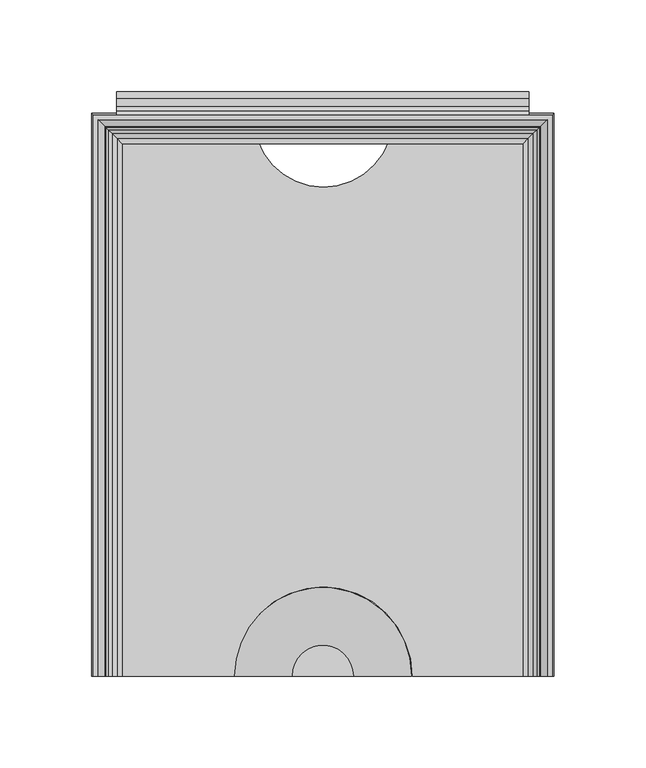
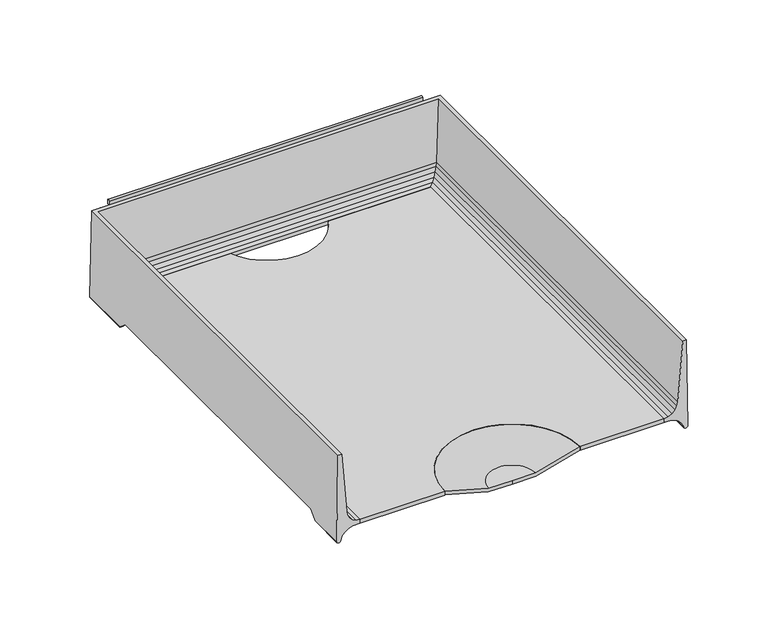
"""IFC4 building model written with IfcOpenShell, lengths in millimetres: furniture geometry."""

import ifcopenshell
import ifcopenshell.guid

model = None  # the IFC model being written
_history = None  # IfcOwnerHistory: only IFC2X3 demands one
_inside = {}  # id of a spatial element -> (the spatial element, [elements in it])
_under = {}  # id of a project, library or spatial element -> (it, [spatial elements below it])
_declared = {}  # id of a project -> (the project, [libraries it declares])
_typed = {}  # id of a type object -> (the type object, [elements of that type])
_made_of = {}  # id of a material, layer set ... -> (it, [elements and type objects made of it])


def new_model(schema):
    """Start an empty IFC model of exactly this schema.

    Asked for "IFC4X3", IfcOpenShell would pick the latest addendum, in which some entities
    have other attributes; the version numbers below select the first issue.
    IFC2X3 requires an IfcOwnerHistory on every rooted entity: one is made here for all.
    """
    global model, _history
    if schema == "IFC4X3":
        model = ifcopenshell.file(schema_version=(4, 3, 0, 0))
    else:
        model = ifcopenshell.file(schema=schema)
    _inside.clear()
    _under.clear()
    _declared.clear()
    _typed.clear()
    _made_of.clear()
    _history = None
    if model.schema == "IFC2X3":
        org = make("IfcOrganization", Name="unknown")
        user = make(
            "IfcPersonAndOrganization",
            ThePerson=make("IfcPerson", FamilyName="unknown"),
            TheOrganization=org,
        )
        app = make(
            "IfcApplication",
            ApplicationDeveloper=org,
            Version="unknown",
            ApplicationFullName="unknown",
            ApplicationIdentifier="unknown",
        )
        _history = make(
            "IfcOwnerHistory",
            OwningUser=user,
            OwningApplication=app,
            ChangeAction="ADDED",
            CreationDate=0,
        )
    return model


def make(cls, **values):
    """One entity of the class cls with the attributes given. An attribute that is None is left unset."""
    return model.create_entity(
        cls, **{name: value for name, value in values.items() if value is not None}
    )


def rooted(cls, **values):
    """An entity with a GlobalId (a new one), such as an element, a storey or a relation."""
    return make(cls, GlobalId=ifcopenshell.guid.new(), OwnerHistory=_history, **values)


def si_unit(unit_type, name, prefix=None):
    """IfcSIUnit, for example si_unit("LENGTHUNIT", "METRE", prefix="MILLI")."""
    return make("IfcSIUnit", UnitType=unit_type, Prefix=prefix, Name=name)


def assignment(units):
    """IfcUnitAssignment: the units of a project."""
    return None if units is None else make("IfcUnitAssignment", Units=units)


def point(xyz):
    """IfcCartesianPoint."""
    return None if xyz is None else make("IfcCartesianPoint", Coordinates=xyz)


def direction(xyz):
    """IfcDirection."""
    return None if xyz is None else make("IfcDirection", DirectionRatios=xyz)


def frame(location, z_axis=None, x_axis=None):
    """IfcAxis2Placement3D, a coordinate frame: its origin and axes. An axis left out is left unset."""
    return make(
        "IfcAxis2Placement3D",
        Location=point(location),
        Axis=direction(z_axis),
        RefDirection=direction(x_axis),
    )


def frame_2d(location, x_axis=None):
    """IfcAxis2Placement2D, a coordinate frame in the plane: its origin and x axis."""
    return make(
        "IfcAxis2Placement2D", Location=point(location), RefDirection=direction(x_axis)
    )


def origin():
    """The frame at (0, 0, 0) with its axes left unset."""
    return frame((0.0, 0.0, 0.0))


def place(relative_to, where):
    """IfcLocalPlacement: puts the frame where relative to a parent placement (None: the world)."""
    return make(
        "IfcLocalPlacement", PlacementRelTo=relative_to, RelativePlacement=where
    )


def context(
    kind, dimensions, precision=None, world=None, true_north=None, identifier=None
):
    """IfcGeometricRepresentationContext, for example the 3D "Model" context."""
    return make(
        "IfcGeometricRepresentationContext",
        ContextIdentifier=identifier,
        ContextType=kind,
        CoordinateSpaceDimension=dimensions,
        Precision=precision,
        WorldCoordinateSystem=world,
        TrueNorth=true_north,
    )


def project(units=None, contexts=None):
    """IfcProject with its units and contexts."""
    return rooted(
        "IfcProject",
        Name="project",
        RepresentationContexts=contexts,
        UnitsInContext=assignment(units),
    )


def spatial(cls, under=None, at=None, **own):
    """A site, building, storey or space (cls), placed at a placement, below another one or the project."""
    s = rooted(cls, ObjectPlacement=at, **own)
    if under is not None:
        _under.setdefault(under.id(), (under, []))[1].append(s)
    return s


def polyline(points):
    """IfcPolyline through the points."""
    return make("IfcPolyline", Points=[point(p) for p in points])


def circle_curve(where, radius):
    """IfcCircle in the frame where."""
    return make("IfcCircle", Position=where, Radius=radius)


def ellipse_curve(where, semi_axis1, semi_axis2):
    """IfcEllipse in the frame where."""
    return make(
        "IfcEllipse", Position=where, SemiAxis1=semi_axis1, SemiAxis2=semi_axis2
    )


def trimmed(basis, trim1, trim2, sense, master):
    """IfcTrimmedCurve: the piece of a basis curve between two trims."""
    return make(
        "IfcTrimmedCurve",
        BasisCurve=basis,
        Trim1=trim1,
        Trim2=trim2,
        SenseAgreement=sense,
        MasterRepresentation=master,
    )


def segment(curve, same_sense, transition):
    """IfcCompositeCurveSegment."""
    return make(
        "IfcCompositeCurveSegment",
        Transition=transition,
        SameSense=same_sense,
        ParentCurve=curve,
    )


def composite_curve(segments, self_intersect=None):
    """IfcCompositeCurve: segments joined end to end."""
    return make("IfcCompositeCurve", Segments=segments, SelfIntersect=self_intersect)


def outline(outer, holes=None, kind="AREA"):
    """IfcArbitraryClosedProfileDef: a profile drawn as a closed curve; with holes, ...WithVoids."""
    if holes is None:
        return make("IfcArbitraryClosedProfileDef", ProfileType=kind, OuterCurve=outer)
    return make(
        "IfcArbitraryProfileDefWithVoids",
        ProfileType=kind,
        OuterCurve=outer,
        InnerCurves=holes,
    )


def extrude(swept, where, along, depth):
    """IfcExtrudedAreaSolid: the profile swept, set in the frame where, extruded along a direction by depth."""
    return make(
        "IfcExtrudedAreaSolid",
        SweptArea=swept,
        Position=where,
        ExtrudedDirection=direction(along),
        Depth=depth,
    )


def shape(context_of_items, identifier, shape_type, items):
    """IfcShapeRepresentation: the items that make up one representation, for example the "Body"."""
    return make(
        "IfcShapeRepresentation",
        ContextOfItems=context_of_items,
        RepresentationIdentifier=identifier,
        RepresentationType=shape_type,
        Items=items,
    )


def source(mapping_origin, context_of_items, identifier, shape_type, items):
    """IfcRepresentationMap: a shape defined once, which mapped items show again and again."""
    return make(
        "IfcRepresentationMap",
        MappingOrigin=mapping_origin,
        MappedRepresentation=shape(context_of_items, identifier, shape_type, items),
    )


def transform(
    local_origin,
    x_axis=None,
    y_axis=None,
    z_axis=None,
    scale=None,
    scale2=None,
    scale3=None,
    uniform=True,
):
    """IfcCartesianTransformationOperator3D, or its non-uniform kind. x_axis, y_axis, z_axis: its Axis1, 2, 3."""
    if uniform:
        return make(
            "IfcCartesianTransformationOperator3D",
            Axis1=direction(x_axis),
            Axis2=direction(y_axis),
            LocalOrigin=point(local_origin),
            Scale=scale,
            Axis3=direction(z_axis),
        )
    return make(
        "IfcCartesianTransformationOperator3DnonUniform",
        Axis1=direction(x_axis),
        Axis2=direction(y_axis),
        LocalOrigin=point(local_origin),
        Scale=scale,
        Axis3=direction(z_axis),
        Scale2=scale2,
        Scale3=scale3,
    )


def mapped(mapping_source, mapping_target):
    """IfcMappedItem: shows the shape of a source again, moved by a transform."""
    return make(
        "IfcMappedItem", MappingSource=mapping_source, MappingTarget=mapping_target
    )


def made_of(thing, what):
    """Note that an element or type object is made of a material, layer set ...; save() writes the relation."""
    if what is not None:
        _made_of.setdefault(what.id(), (what, []))[1].append(thing)
    return thing


def element(
    cls,
    number,
    at=None,
    inside=None,
    cuts=None,
    type_object=None,
    material=None,
    context=None,
    identifier="Body",
    shape_type=None,
    held_by="IfcProductDefinitionShape",
    body=None,
    shapes=None,
    **own,
):
    """One element of the class cls, such as IfcWall. Its Tag is "e" and its number.

    at: its placement. inside: the storey or other place that contains it. cuts: it is an
    opening in that element (IfcRelVoidsElement). A single representation is given by context,
    identifier, shape_type and body (its items); several are given by shapes. held_by: the class
    of the entity that holds the representations. save() writes the other relations.
    """
    e = rooted(cls, Tag="e%d" % number, ObjectPlacement=at, **own)
    if body is not None:
        shapes = [shape(context, identifier, shape_type, body)]
    if shapes is not None:
        e.Representation = make(held_by, Representations=shapes)
    if inside is not None:
        _inside.setdefault(inside.id(), (inside, []))[1].append(e)
    if cuts is not None:
        rooted(
            "IfcRelVoidsElement", RelatingBuildingElement=cuts, RelatedOpeningElement=e
        )
    if type_object is not None:
        _typed.setdefault(type_object.id(), (type_object, []))[1].append(e)
    return made_of(e, material)


def aggregate(whole, parts):
    """IfcRelAggregates: a whole, such as a stair, and the parts it consists of."""
    return rooted("IfcRelAggregates", RelatingObject=whole, RelatedObjects=parts)


def save(model, path):
    """Write the relations noted so far, then the file.

    IfcRelAggregates (storeys below a building ...), IfcRelContainedInSpatialStructure (elements
    in a storey), IfcRelDefinesByType, IfcRelAssociatesMaterial and IfcRelDeclares: one each for
    every whole, place, type object, material and project.
    """
    for whole, parts in _under.values():
        aggregate(whole, parts)
    for where, things in _inside.values():
        rooted(
            "IfcRelContainedInSpatialStructure",
            RelatedElements=things,
            RelatingStructure=where,
        )
    for kind, things in _typed.values():
        rooted("IfcRelDefinesByType", RelatedObjects=things, RelatingType=kind)
    for what, things in _made_of.values():
        rooted("IfcRelAssociatesMaterial", RelatedObjects=things, RelatingMaterial=what)
    for by, libraries in _declared.values():
        rooted("IfcRelDeclares", RelatingContext=by, RelatedDefinitions=libraries)
    model.write(path)


def plane_surface(at):
    """IfcPlane: the flat surface through the origin of the frame at, square to its z axis."""
    return make("IfcPlane", Position=at)


def cylinder_surface(at, radius):
    """IfcCylindricalSurface: all points at the distance radius from the z axis of the frame at."""
    return make("IfcCylindricalSurface", Position=at, Radius=radius)


def revolved_surface(curve, axis_point, axis_direction):
    """IfcSurfaceOfRevolution: the curve turned about the line through axis_point along axis_direction."""
    return make(
        "IfcSurfaceOfRevolution",
        SweptCurve=make("IfcArbitraryOpenProfileDef", ProfileType="CURVE", Curve=curve),
        AxisPosition=make("IfcAxis1Placement", Location=point(axis_point), Axis=direction(axis_direction)),
    )


def advanced_brep(points, edges, surfaces, faces):
    """IfcAdvancedBrep: a solid bounded by faces that lie on surfaces and meet in shared edges.

    An edge is (start, end): straight between two places in points (the first is 0);
    or (start, end, curve); or (start, end, curve, False) where it runs against its curve.
    A face is (place in surfaces, loops), or (place, loops, False) where it looks against
    its surface's normal. A loop lists edges by number (the first is 1), with a minus sign
    where the edge is run from its end to its start. The first loop is the outer one.
    """
    corners = [point(p) for p in points]
    vertices = [make("IfcVertexPoint", VertexGeometry=c) for c in corners]
    made = []
    for start, end, *more in edges:
        made.append(
            make(
                "IfcEdgeCurve",
                EdgeStart=vertices[start],
                EdgeEnd=vertices[end],
                EdgeGeometry=more[0] if more else make("IfcPolyline", Points=[corners[start], corners[end]]),
                SameSense=more[1] if len(more) > 1 else True,
            )
        )
    hull = []
    for where, loops, *sense in faces:
        bounds = []
        for j, loop in enumerate(loops):
            ring = [make("IfcOrientedEdge", EdgeElement=made[abs(k) - 1], Orientation=k > 0) for k in loop]
            bounds.append(
                make(
                    "IfcFaceOuterBound" if j == 0 else "IfcFaceBound",
                    Bound=make("IfcEdgeLoop", EdgeList=ring),
                    Orientation=True,
                )
            )
        hull.append(make("IfcAdvancedFace", Bounds=bounds, FaceSurface=surfaces[where], SameSense=sense[0] if sense else True))
    return make("IfcAdvancedBrep", Outer=make("IfcClosedShell", CfsFaces=hull))


def furniture_bfd90adf(model_context):
    return source(origin(), model_context, "Body", "SolidModel", [
        advanced_brep(
        [(126.0820502, -154.0206082, 823.6007489), (125.1325529, -154.0206082, 889.0001914), (122.4547921, -154.0206082, 889.0001914), (118.8379747, -154.0206082, 844.2131003), (118.4123648, -154.0206082, 841.4796052), (117.0774354, -154.0206082, 838.7785664), (114.9656457, -154.0206082, 836.6296015), (112.28832, -154.0206082, 835.2477261), (109.3133381, -154.0206082, 834.7712052), (109.3133381, -154.0206082, 831.9490971), (114.5666739, -154.0206082, 831.7560987), (117.605351, -154.0206082, 830.6997218), (120.2416, -154.0206082, 828.8558822), (122.2762142, -154.0206082, 826.3639079), (123.1625518, -154.0206082, 823.3206655), (126.0820502, -127.6379698, 823.6007489), (126.0026181, -121.5231874, 829.071872), (126.0026181, 109.0611937, 829.071872), (126.0820502, 115.1759816, 823.6007489), (126.0820502, 153.036442, 823.6007489), (125.1325529, 152.0869447, 889.0001914), (-125.1325529, 152.0869447, 889.0001914), (-125.1325529, -154.0206082, 889.0001914), (-122.4547921, -154.0206082, 889.0001914), (-122.4547921, 149.4091839, 889.0001914), (122.4547921, 149.4091839, 889.0001914), (118.8379747, 145.7923665, 844.2131003), (118.4123648, 145.3667566, 841.4796052), (117.0774354, 144.0318272, 838.7785664), (114.9656457, 141.9200375, 836.6296015), (112.28832, 139.2427118, 835.2477261), (109.3133381, 136.2677299, 834.7712052), (109.3133381, 136.2677299, 831.9490971), (114.5666739, 141.5210656, 831.7560987), (117.605351, 144.5597428, 830.6997218), (120.2416, 147.1959918, 828.8558822), (120.2416, 109.3025941, 828.8558822), (119.9327864, 109.0611937, 829.071872), (119.9327864, -121.5231874, 829.071872), (120.2416, -121.7645876, 828.8558822), (122.2762142, -124.5497344, 826.3639079), (122.2762142, 149.230606, 826.3639079), (122.2762142, 112.0877435, 826.3639079), (123.1625518, -127.9510041, 823.3206655), (123.1625518, 150.1169436, 823.3206655), (123.1625518, 115.4890162, 823.3206655), (-126.0820502, 153.036442, 823.6007489), (-118.8379747, 145.7923665, 844.2131003), (-118.4123648, 145.3667566, 841.4796052), (-117.0774354, 144.0318272, 838.7785664), (-114.9656457, 141.9200375, 836.6296015), (-112.28832, 139.2427118, 835.2477261), (-109.3133381, 136.2677299, 834.7712052), (-109.3133381, 136.2677299, 831.9490971), (-114.5666739, 141.5210656, 831.7560987), (-117.605351, 144.5597428, 830.6997218), (-120.2416, 147.1959918, 828.8558822), (-122.2762142, 149.230606, 826.3639079), (-123.1625518, 150.1169436, 823.3206655), (-126.0820502, -154.0206082, 823.6007489), (-123.1625518, -154.0206082, 823.3206655), (-122.2762142, -154.0206082, 826.3639079), (-120.2416, -154.0206082, 828.8558822), (-117.605351, -154.0206082, 830.6997218), (-114.5666739, -154.0206082, 831.7560987), (-109.3133381, -154.0206082, 831.9490971), (-109.3133381, -154.0206082, 834.7712052), (-112.28832, -154.0206082, 835.2477261), (-114.9656457, -154.0206082, 836.6296015), (-117.0774354, -154.0206082, 838.7785664), (-118.4123648, -154.0206082, 841.4796052), (-118.8379747, -154.0206082, 844.2131003), (-126.0820502, 115.1759816, 823.6007489), (-126.0026181, 109.0611937, 829.071872), (-126.0026181, -121.5231874, 829.071872), (-126.0820502, -127.6379698, 823.6007489), (-120.2416, -121.7645876, 828.8558822), (-119.9327864, -121.5231874, 829.071872), (-119.9327864, 109.0611937, 829.071872), (-120.2416, 109.3025941, 828.8558822), (-122.2762142, 112.0877435, 826.3639079), (-122.2762142, -124.5497344, 826.3639079), (-123.1625518, 115.4890162, 823.3206655), (-123.1625518, -127.9510041, 823.3206655)],
        [
            (0, 1),
            (1, 2),
            (2, 3),
            (3, 4),
            (4, 5),
            (5, 6),
            (6, 7),
            (7, 8),
            (8, 9),
            (9, 10),
            (10, 11),
            (11, 12),
            (12, 13),
            (13, 14),
            (14, 0, circle_curve(frame((124.5859452, -154.0206082, 823.8396685), z_axis=(0.0, -1.0, 0.0), x_axis=(-1.0, 0.0, 0.0)), 1.515062)),
            (0, 15),
            (15, 16),
            (16, 17),
            (17, 18),
            (18, 19),
            (19, 20),
            (20, 1),
            (20, 21),
            (21, 22),
            (22, 23),
            (23, 24),
            (24, 25),
            (25, 2),
            (25, 26),
            (26, 3),
            (26, 27),
            (27, 4),
            (27, 28),
            (28, 5),
            (28, 29),
            (29, 6),
            (29, 30),
            (30, 7),
            (30, 31),
            (31, 8),
            (31, 32),
            (32, 9),
            (32, 33),
            (33, 10),
            (33, 34),
            (34, 11),
            (34, 35),
            (35, 36),
            (36, 37),
            (37, 38),
            (38, 39),
            (39, 12),
            (39, 40),
            (40, 13),
            (35, 41),
            (41, 42),
            (42, 36),
            (40, 43),
            (43, 14),
            (41, 44),
            (44, 45),
            (45, 42),
            (43, 15, ellipse_curve(frame((124.5859452, -127.3709422, 823.8396685), z_axis=(0.0, -0.6667949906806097, 0.7452411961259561), x_axis=(0.0, -0.7452411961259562, -0.6667949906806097)), 2.2721556, 1.515062)),
            (44, 19, ellipse_curve(frame((124.5859452, 151.540337, 823.8396685), z_axis=(0.7071067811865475, -0.7071067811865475, 0.0), x_axis=(-0.7071067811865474, -0.7071067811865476, 0.0)), 2.1426212, 1.515062)),
            (18, 45, ellipse_curve(frame((124.5859452, 114.9089538, 823.8396685), z_axis=(0.0, 0.6667946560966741, 0.7452414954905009), x_axis=(0.0, -0.7452414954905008, 0.6667946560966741)), 2.2721567, 1.515062)),
            (19, 46),
            (46, 21),
            (24, 47),
            (47, 26),
            (47, 48),
            (48, 27),
            (48, 49),
            (49, 28),
            (49, 50),
            (50, 29),
            (50, 51),
            (51, 30),
            (51, 52),
            (52, 31),
            (52, 53),
            (53, 32),
            (53, 54),
            (54, 33),
            (54, 55),
            (55, 34),
            (55, 56),
            (56, 35),
            (56, 57),
            (57, 41),
            (57, 58),
            (58, 44),
            (58, 46, ellipse_curve(frame((-124.5859452, 151.540337, 823.8396685), z_axis=(0.7071067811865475, 0.7071067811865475, 0.0), x_axis=(0.7071067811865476, -0.7071067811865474, 0.0)), 2.1426212, 1.515062)),
            (22, 59),
            (59, 60, circle_curve(frame((-124.5859452, -154.0206082, 823.8396685), z_axis=(0.0, -1.0, 0.0), x_axis=(1.0, 0.0, 0.0)), 1.515062)),
            (60, 61),
            (61, 62),
            (62, 63),
            (63, 64),
            (64, 65),
            (65, 66),
            (66, 67),
            (67, 68),
            (68, 69),
            (69, 70),
            (70, 71),
            (71, 23),
            (46, 72),
            (72, 73),
            (73, 74),
            (74, 75),
            (75, 59),
            (71, 47),
            (70, 48),
            (69, 49),
            (68, 50),
            (67, 51),
            (66, 52),
            (65, 53),
            (64, 54),
            (63, 55),
            (62, 76),
            (76, 77),
            (77, 78),
            (78, 79),
            (79, 56),
            (79, 80),
            (80, 57),
            (61, 81),
            (81, 76),
            (80, 82),
            (82, 58),
            (60, 83),
            (83, 81),
            (82, 72, ellipse_curve(frame((-124.5859452, 114.9089538, 823.8396685), z_axis=(0.0, 0.6667946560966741, 0.7452414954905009), x_axis=(0.0, 0.7452414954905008, -0.6667946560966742)), 2.2721567, 1.515062)),
            (75, 83, ellipse_curve(frame((-124.5859452, -127.3709422, 823.8396685), z_axis=(0.0, -0.6667949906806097, 0.7452411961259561), x_axis=(0.0, 0.745241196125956, 0.6667949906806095)), 2.2721556, 1.515062)),
            (38, 16),
            (74, 77),
            (37, 17),
            (73, 78),
        ],
        [
            plane_surface(frame((127.0, -154.0206082, 822.325), z_axis=(0.0, -1.0, 0.0), x_axis=(0.0, 0.0, 1.0))),
            plane_surface(frame((126.0820502, -154.0206082, 823.6007489), z_axis=(0.9998946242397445, 0.0, 0.014516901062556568), x_axis=(0.0, 1.0, 0.0))),
            plane_surface(frame((125.1325529, -154.0206082, 889.0001914), z_axis=(0.0, 0.0, 1.0), x_axis=(0.0, 1.0, 0.0))),
            plane_surface(frame((122.4547921, -154.0206082, 889.0001914), z_axis=(-0.9967551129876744, 0.0, 0.08049375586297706), x_axis=(0.0, 1.0, 0.0))),
            plane_surface(frame((118.8379747, -154.0206082, 844.2131003), z_axis=(-0.9880945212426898, 0.0, 0.15384803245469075), x_axis=(0.0, 1.0, 0.0))),
            plane_surface(frame((118.4123648, -154.0206082, 841.4796052), z_axis=(-0.8964873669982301, 0.0, 0.44306929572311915), x_axis=(0.0, 1.0, 0.0))),
            plane_surface(frame((117.0774354, -154.0206082, 838.7785664), z_axis=(-0.7132491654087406, 0.0, 0.7009105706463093), x_axis=(0.0, 1.0, 0.0))),
            plane_surface(frame((114.9656457, -154.0206082, 836.6296015), z_axis=(-0.45865074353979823, 0.0, 0.8886166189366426), x_axis=(0.0, 1.0, 0.0))),
            plane_surface(frame((112.28832, -154.0206082, 835.2477261), z_axis=(-0.15816001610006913, 0.0, 0.987413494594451), x_axis=(0.0, 1.0, 0.0))),
            plane_surface(frame((109.3133381, -154.0206082, 834.7712052), z_axis=(-1.0, 0.0, 0.0), x_axis=(0.0, 1.0, 0.0))),
            plane_surface(frame((109.3133381, -154.0206082, 831.9490971), z_axis=(-0.036713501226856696, 0.0, -0.9993258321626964), x_axis=(0.0, 1.0, 0.0))),
            plane_surface(frame((114.5666739, -154.0206082, 831.7560987), z_axis=(-0.3283669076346, 0.0, -0.9445502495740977), x_axis=(0.0, 1.0, 0.0))),
            plane_surface(frame((117.605351, -154.0206082, 830.6997218), z_axis=(-0.5731421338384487, 0.0, -0.819455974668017), x_axis=(0.0, 1.0, 0.0))),
            plane_surface(frame((120.2416, -154.0206082, 828.8558822), z_axis=(-0.77460799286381, 0.0, -0.6324416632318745), x_axis=(0.0, 1.0, 0.0))),
            plane_surface(frame((122.2762142, -154.0206082, 826.3639079), z_axis=(-0.9601080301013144, 0.0, -0.2796293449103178), x_axis=(0.0, 1.0, 0.0))),
            cylinder_surface(frame((124.5859452, -154.0206082, 823.8396685), z_axis=(0.0, -1.0, 0.0), x_axis=(-1.0, 0.0, 0.0)), 1.515062),
            plane_surface(frame((126.0820502, 153.036442, 823.6007489), z_axis=(0.0, 0.9998946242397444, 0.014516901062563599), x_axis=(-1.0, 0.0, 0.0))),
            plane_surface(frame((122.4547921, 149.4091839, 889.0001914), z_axis=(0.0, -0.9967551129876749, 0.08049375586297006), x_axis=(-1.0, 0.0, 0.0))),
            plane_surface(frame((118.8379747, 145.7923665, 844.2131003), z_axis=(0.0, -0.9880945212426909, 0.15384803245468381), x_axis=(-1.0, 0.0, 0.0))),
            plane_surface(frame((118.4123648, 145.3667566, 841.4796052), z_axis=(0.0, -0.8964873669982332, 0.4430692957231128), x_axis=(-1.0, 0.0, 0.0))),
            plane_surface(frame((117.0774354, 144.0318272, 838.7785664), z_axis=(0.0, -0.7132491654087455, 0.7009105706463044), x_axis=(-1.0, 0.0, 0.0))),
            plane_surface(frame((114.9656457, 141.9200375, 836.6296015), z_axis=(0.0, -0.4586507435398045, 0.8886166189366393), x_axis=(-1.0, 0.0, 0.0))),
            plane_surface(frame((112.28832, 139.2427118, 835.2477261), z_axis=(0.0, -0.15816001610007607, 0.9874134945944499), x_axis=(-1.0, 0.0, 0.0))),
            plane_surface(frame((109.3133381, 136.2677299, 834.7712052), z_axis=(0.0, -1.0, 0.0), x_axis=(-1.0, 0.0, 0.0))),
            plane_surface(frame((109.3133381, 136.2677299, 831.9490971), z_axis=(0.0, -0.03671350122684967, -0.9993258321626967), x_axis=(-1.0, 0.0, 0.0))),
            plane_surface(frame((114.5666739, 141.5210656, 831.7560987), z_axis=(0.0, -0.32836690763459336, -0.9445502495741), x_axis=(-1.0, 0.0, 0.0))),
            plane_surface(frame((117.605351, 144.5597428, 830.6997218), z_axis=(0.0, -0.5731421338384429, -0.819455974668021), x_axis=(-1.0, 0.0, 0.0))),
            plane_surface(frame((120.2416, 147.1959918, 828.8558822), z_axis=(0.0, -0.7746079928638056, -0.6324416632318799), x_axis=(-1.0, 0.0, 0.0))),
            plane_surface(frame((122.2762142, 149.230606, 826.3639079), z_axis=(0.0, -0.9601080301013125, -0.27962934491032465), x_axis=(-1.0, 0.0, 0.0))),
            cylinder_surface(frame((127.0, 151.540337, 823.8396685), z_axis=(1.0, 0.0, 0.0), x_axis=(0.0, -1.0, 0.0)), 1.515062),
            plane_surface(frame((-127.0, -154.0206082, 822.325), z_axis=(0.0, -1.0, 0.0), x_axis=(0.0, 0.0, 1.0))),
            plane_surface(frame((-126.0820502, 153.036442, 823.6007489), z_axis=(-0.9998946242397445, 0.0, 0.014516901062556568), x_axis=(0.0, -1.0, 0.0))),
            plane_surface(frame((-122.4547921, 149.4091839, 889.0001914), z_axis=(0.9967551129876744, 0.0, 0.08049375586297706), x_axis=(0.0, -1.0, 0.0))),
            plane_surface(frame((-118.8379747, 145.7923665, 844.2131003), z_axis=(0.9880945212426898, 0.0, 0.15384803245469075), x_axis=(0.0, -1.0, 0.0))),
            plane_surface(frame((-118.4123648, 145.3667566, 841.4796052), z_axis=(0.8964873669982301, 0.0, 0.44306929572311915), x_axis=(0.0, -1.0, 0.0))),
            plane_surface(frame((-117.0774354, 144.0318272, 838.7785664), z_axis=(0.7132491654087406, 0.0, 0.7009105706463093), x_axis=(0.0, -1.0, 0.0))),
            plane_surface(frame((-114.9656457, 141.9200375, 836.6296015), z_axis=(0.45865074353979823, 0.0, 0.8886166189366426), x_axis=(0.0, -1.0, 0.0))),
            plane_surface(frame((-112.28832, 139.2427118, 835.2477261), z_axis=(0.15816001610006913, 0.0, 0.987413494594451), x_axis=(0.0, -1.0, 0.0))),
            plane_surface(frame((-109.3133381, 136.2677299, 834.7712052), z_axis=(1.0, 0.0, 0.0), x_axis=(0.0, -1.0, 0.0))),
            plane_surface(frame((-109.3133381, 136.2677299, 831.9490971), z_axis=(0.036713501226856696, 0.0, -0.9993258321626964), x_axis=(0.0, -1.0, 0.0))),
            plane_surface(frame((-114.5666739, 141.5210656, 831.7560987), z_axis=(0.3283669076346, 0.0, -0.9445502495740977), x_axis=(0.0, -1.0, 0.0))),
            plane_surface(frame((-117.605351, 144.5597428, 830.6997218), z_axis=(0.5731421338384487, 0.0, -0.819455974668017), x_axis=(0.0, -1.0, 0.0))),
            plane_surface(frame((-120.2416, 147.1959918, 828.8558822), z_axis=(0.77460799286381, 0.0, -0.6324416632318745), x_axis=(0.0, -1.0, 0.0))),
            plane_surface(frame((-122.2762142, 149.230606, 826.3639079), z_axis=(0.9601080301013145, 0.0, -0.2796293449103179), x_axis=(0.0, -1.0, 0.0))),
            cylinder_surface(frame((-124.5859452, 153.9543918, 823.8396685), z_axis=(0.0, 1.0, 0.0), x_axis=(1.0, 0.0, 0.0)), 1.515062),
            plane_surface(frame((-127.0, -130.1695728, 821.3356296), z_axis=(0.0, 0.6667949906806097, -0.7452411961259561), x_axis=(1.0, 0.0, 0.0))),
            plane_surface(frame((-127.0, -121.5231874, 829.071872), z_axis=(0.0, 0.0, -1.0), x_axis=(1.0, 0.0, 0.0))),
            plane_surface(frame((-127.0, 109.0611937, 829.071872), z_axis=(0.0, -0.6667946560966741, -0.7452414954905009), x_axis=(1.0, 0.0, 0.0))),
        ],
        [
            (0, [[1, 2, 3, 4, 5, 6, 7, 8, 9, 10, 11, 12, 13, 14, 15]]),
            (1, [[-1, 16, 17, 18, 19, 20, 21, 22]]),
            (2, [[-2, -22, 23, 24, 25, 26, 27, 28]]),
            (3, [[-3, -28, 29, 30]]),
            (4, [[-4, -30, 31, 32]]),
            (5, [[-5, -32, 33, 34]]),
            (6, [[-6, -34, 35, 36]]),
            (7, [[-7, -36, 37, 38]]),
            (8, [[-8, -38, 39, 40]]),
            (9, [[-9, -40, 41, 42]]),
            (10, [[-10, -42, 43, 44]]),
            (11, [[-11, -44, 45, 46]]),
            (12, [[-12, -46, 47, 48, 49, 50, 51, 52]]),
            (13, [[-13, -52, 53, 54]]),
            (13, [[55, 56, 57, -48]]),
            (14, [[-14, -54, 58, 59]]),
            (14, [[60, 61, 62, -56]]),
            (15, [[-15, -59, 63, -16]]),
            (15, [[64, -20, 65, -61]]),
            (16, [[-21, 66, 67, -23]]),
            (17, [[-27, 68, 69, -29]]),
            (18, [[-31, -69, 70, 71]]),
            (19, [[-33, -71, 72, 73]]),
            (20, [[-35, -73, 74, 75]]),
            (21, [[-37, -75, 76, 77]]),
            (22, [[-39, -77, 78, 79]]),
            (23, [[-41, -79, 80, 81]]),
            (24, [[-43, -81, 82, 83]]),
            (25, [[-45, -83, 84, 85]]),
            (26, [[-47, -85, 86, 87]]),
            (27, [[-55, -87, 88, 89]]),
            (28, [[-60, -89, 90, 91]]),
            (29, [[-64, -91, 92, -66]]),
            (30, [[-25, 93, 94, 95, 96, 97, 98, 99, 100, 101, 102, 103, 104, 105, 106]]),
            (31, [[-24, -67, 107, 108, 109, 110, 111, -93]]),
            (32, [[-26, -106, 112, -68]]),
            (33, [[-70, -112, -105, 113]]),
            (34, [[-72, -113, -104, 114]]),
            (35, [[-74, -114, -103, 115]]),
            (36, [[-76, -115, -102, 116]]),
            (37, [[-78, -116, -101, 117]]),
            (38, [[-80, -117, -100, 118]]),
            (39, [[-82, -118, -99, 119]]),
            (40, [[-84, -119, -98, 120]]),
            (41, [[-86, -120, -97, 121, 122, 123, 124, 125]]),
            (42, [[-88, -125, 126, 127]]),
            (42, [[-96, 128, 129, -121]]),
            (43, [[-90, -127, 130, 131]]),
            (43, [[-95, 132, 133, -128]]),
            (44, [[-92, -131, 134, -107]]),
            (44, [[-94, -111, 135, -132]]),
            (45, [[136, -17, -63, -58, -53, -51]]),
            (45, [[137, -122, -129, -133, -135, -110]]),
            (46, [[-136, -50, 138, -18]]),
            (46, [[-137, -109, 139, -123]]),
            (47, [[-138, -49, -57, -62, -65, -19]]),
            (47, [[-139, -108, -134, -130, -126, -124]]),
        ],
    ),
        extrude(outline(composite_curve([segment(polyline([(-109.3647805, 138.2769393), (-35.6610422, 138.2769393)]), True, "CONTINUOUS"), segment(trimmed(circle_curve(frame_2d((0.3369133, 150.6584166)), 38.0677525), [point((-35.6610422, 138.2769393))], [point((36.3348688, 138.2769393))], True, "CARTESIAN"), True, "CONTINUOUS"), segment(polyline([(36.3348688, 138.2769393), (109.6504969, 138.2769393), (109.6504969, -153.9875), (48.9112184, -153.9875)]), True, "CONTINUOUS"), segment(trimmed(circle_curve(frame_2d((0.2842795, -153.9323196)), 48.6269702), [point((48.9112184, -153.9875))], [point((-48.3426595, -153.9875))], True, "CARTESIAN"), True, "CONTINUOUS"), segment(polyline([(-48.3426595, -153.9875), (-109.3647805, -153.9875), (-109.3647805, 138.2769393)]), True, "CONTINUOUS")], self_intersect=False)), frame((0.0, 0.0, 831.9314677), z_axis=(0.0, 0.0, 1.0), x_axis=(1.0, 0.0, 0.0)), (0.0, 0.0, 1.0), 2.8395461),
        extrude(outline(composite_curve([segment(trimmed(circle_curve(frame_2d((162.7186949, 873.1707343)), 1.9049988), [point((164.6236937, 873.1707343))], [point((160.8136962, 873.1707343))], False, "CARTESIAN"), True, "CONTINUOUS"), segment(polyline([(160.8136962, 873.1707343), (160.8136962, 876.5997311), (160.0516969, 877.3617303), (156.4380325, 877.3617303), (152.1427596, 875.0143331), (152.1427596, 883.5191285), (156.4380325, 881.1717312), (160.8136928, 881.1717312)]), True, "CONTINUOUS"), segment(trimmed(circle_curve(frame_2d((160.8136928, 877.3617303)), 3.8100009), [point((160.8136928, 881.1717312))], [point((164.6236937, 877.3617303))], False, "CARTESIAN"), True, "CONTINUOUS"), segment(polyline([(164.6236937, 877.3617303), (164.6236937, 873.1707343)]), True, "CONTINUOUS")], self_intersect=False)), frame((-112.5397809, 0.0, 0.0), z_axis=(1.0, 0.0, 0.0), x_axis=(0.0, 1.0, 0.0)), (0.0, 0.0, 1.0), 225.0795617),
        advanced_brep(
        [(-16.8929028, -153.9875, 825.896875), (-48.4614622, -153.9875, 834.8045432), (-48.4614622, -153.9875, 832.2130018), (-16.9249292, -153.9875, 823.3143704), (0.0, -153.9875, 823.3143704), (0.0, -153.9875, 825.896875), (16.8929028, -153.9875, 825.896875), (16.9249292, -153.9875, 823.3143704), (48.4614622, -153.9875, 832.2130018), (48.4614622, -153.9875, 834.8045432)],
        [
            (0, 1),
            (1, 2),
            (2, 3),
            (3, 4),
            (4, 5),
            (5, 0),
            (6, 5),
            (4, 7),
            (7, 8),
            (8, 9),
            (9, 6),
            (9, 1, circle_curve(frame((0.0, -153.9875, 834.8045432), z_axis=(0.0, 0.0, 1.0), x_axis=(-1.0, 0.0, 0.0)), 48.4614622)),
            (0, 6, circle_curve(frame((0.0, -153.9875, 825.896875), z_axis=(0.0, 0.0, -1.0), x_axis=(-1.0, 0.0, 0.0)), 16.8929028)),
            (8, 2, circle_curve(frame((0.0, -153.9875, 832.2130018), z_axis=(0.0, 0.0, 1.0), x_axis=(-1.0, 0.0, 0.0)), 48.4614622)),
            (7, 3, circle_curve(frame((0.0, -153.9875, 823.3143704), z_axis=(0.0, 0.0, 1.0), x_axis=(-1.0, 0.0, 0.0)), 16.9249292)),
        ],
        [
            plane_surface(frame((0.0, -153.9875, 822.325), z_axis=(0.0, -1.0, 0.0), x_axis=(-1.0, 0.0, 0.0))),
            plane_surface(frame((0.0, -153.9875, 822.325), z_axis=(0.0, -1.0, 0.0), x_axis=(1.0, 0.0, 0.0))),
            revolved_surface(polyline([(-48.4614622, -153.9875, 834.8045432), (-16.8929028, -153.9875, 825.896875)]), (0.0, -153.9875, 822.325), (0.0, 0.0, 1.0)),
            cylinder_surface(frame((0.0, -153.9875, 822.325), z_axis=(0.0, 0.0, 1.0), x_axis=(-1.0, 0.0, 0.0)), 48.4614622),
            revolved_surface(polyline([(-16.9249292, -153.9875, 823.3143704), (-48.4614622, -153.9875, 832.2130018)]), (0.0, -153.9875, 822.325), (0.0, 0.0, 1.0)),
            plane_surface(frame((0.0, -153.9875, 823.3143704), z_axis=(0.0, 0.0, -1.0), x_axis=(-1.0, 0.0, 0.0))),
            plane_surface(frame((0.0, -153.9875, 825.896875), z_axis=(0.0, 0.0, 1.0), x_axis=(-1.0, 0.0, 0.0))),
        ],
        [
            (0, [[1, 2, 3, 4, 5, 6]]),
            (1, [[7, -5, 8, 9, 10, 11]]),
            (2, [[12, -1, 13, -11]]),
            (3, [[14, -2, -12, -10]]),
            (4, [[15, -3, -14, -9]]),
            (5, [[-4, -15, -8]]),
            (6, [[-13, -6, -7]]),
        ],
    ),
        extrude(outline(composite_curve([segment(polyline([(153.9875, 889.0), (152.1427596, 889.0), (152.1427596, 891.8315333)]), True, "CONTINUOUS"), segment(trimmed(circle_curve(frame_2d((153.0651298, 891.5262665)), 0.9715733), [point((152.1427596, 891.8315333))], [point((153.9875, 891.8315333))], False, "CARTESIAN"), True, "CONTINUOUS"), segment(polyline([(153.9875, 891.8315333), (153.9875, 889.0)]), True, "CONTINUOUS")], self_intersect=False)), frame((-112.5397809, 0.0, 0.0), z_axis=(1.0, 0.0, 0.0), x_axis=(0.0, 1.0, 0.0)), (0.0, 0.0, 1.0), 225.0795617),
    ])


if __name__ == "__main__":
    model = new_model("IFC4")
    model_context = context("Model", 3, world=origin())
    ifc_project = project(units=[si_unit("LENGTHUNIT", "METRE", prefix="MILLI")], contexts=[model_context])
    site = spatial("IfcSite", under=ifc_project)
    building = spatial("IfcBuilding", under=site)
    placement = place(None, origin())
    furniture_shape = furniture_bfd90adf(model_context)
    element("IfcFurniture", 1, ObjectType="HermanMiller_ThrivePortfolio_Y7216_PaperTray : 3\"H x 12\"D x 10\"W", at=placement, inside=building, context=model_context, shape_type="MappedRepresentation", body=[
        mapped(furniture_shape, transform((0.0, 0.0, 0.0), x_axis=(1.0, 0.0, 0.0), y_axis=(0.0, 1.0, 0.0), z_axis=(0.0, 0.0, 1.0))),
    ])
    save(model, "model.ifc")
